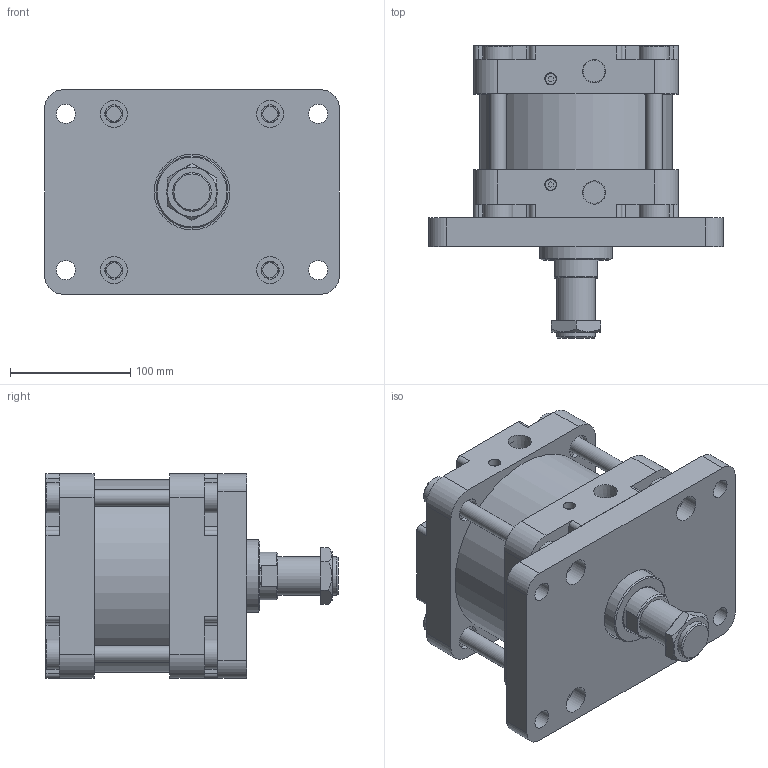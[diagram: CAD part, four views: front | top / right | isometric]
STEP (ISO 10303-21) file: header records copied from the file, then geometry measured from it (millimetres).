
FILE_DESCRIPTION(/* description */ ('Unknown'),/* implementation_level */ '2;1');
FILE_NAME(/* name */ 'WA150-0-FA',/* time_stamp */ '2026-07-17T17:00:41+08:00',/* author */ ('Unknown'),/* organization */ ('Unknown'),/* preprocessor_version */ 'ST-DEVELOPER v16.7',/* originating_system */ 'DEX',/* authorisation */ $);
FILE_SCHEMA (('CONFIG_CONTROL_DESIGN'));
Length unit declared in the file: millimetre
Products named in the file (8): WA150-0-FA; WA150_玡嶈搵; WA150_後0; WA150_鋁; WA150_¤ß¶b¬¡æ´»å¡žçµ„; WA150_FA; WA150_T帽牙; M32-2.0P-10_螺
Assembly tree (10 placements, depth 2):
  WA150-0-FA
    WA150_玡嶈搵
    WA150_後0
    WA150_鋁
    WA150_¤ß¶b¬¡æ´»å¡žçµ„
    WA150_FA
    WA150_T帽牙  x4
    M32-2.0P-10_螺
Bounding box: 245 x 243 x 170 mm (x, y, z)
Volume: 4170784.6 mm3; surface area: 517350.6 mm2
Topology: 10 solids, 10 shells, 416 faces, 1018 edges, 679 vertices
Faces by surface type: plane 229, cylinder 156, cone 23, torus 8
Full cylindrical faces by diameter (mm): 9 x2, 10 x2, 12.5 x8, 14 x4, 15 x4, 16 x4, 20 x16, 22.5 x4, 25 x8, 30 x1, 32 x1, 40 x2, 41 x1, 60 x1, 63 x1, 149.5 x1, 150 x3, 160 x1
Entity records: 11472 total; most frequent: CARTESIAN_POINT 1714, DIRECTION 1660, ORIENTED_EDGE 1466, EDGE_CURVE 733, AXIS2_PLACEMENT_3D 627, VERTEX_POINT 517, EDGE_LOOP 444, FACE_BOUND 444
